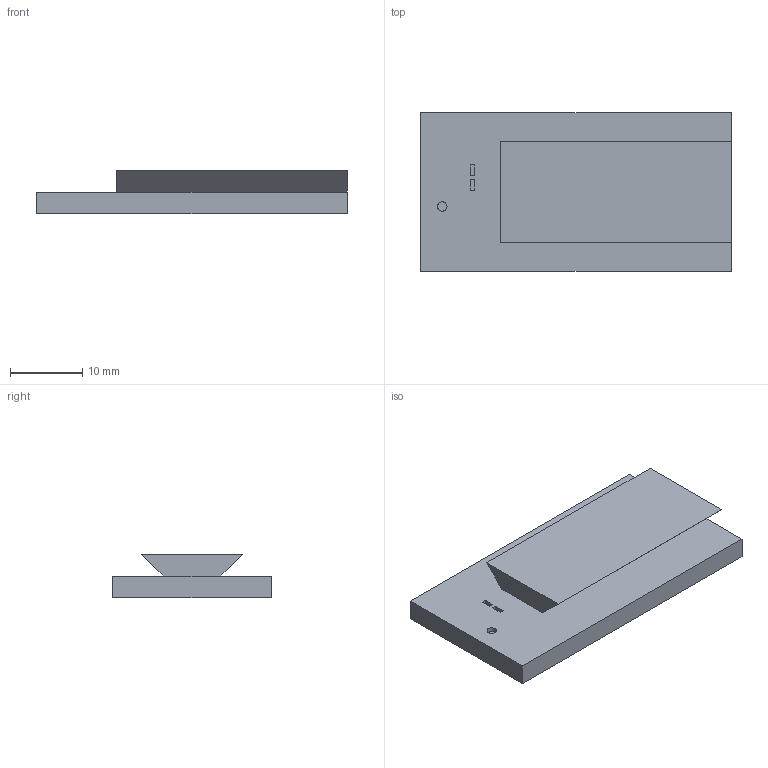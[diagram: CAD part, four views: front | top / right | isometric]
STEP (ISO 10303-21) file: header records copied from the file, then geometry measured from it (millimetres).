
FILE_DESCRIPTION(('Open CASCADE Model'),'2;1');
FILE_NAME('Open CASCADE Shape Model','2026-09-13T15:34:20',('Author'),( 'Open CASCADE'),'Open CASCADE STEP processor 7.9','build123d', 'Unknown');
FILE_SCHEMA(('AUTOMOTIVE_DESIGN { 1 0 10303 214 1 1 1 1 }'));
Length unit declared in the file: millimetre
Products named in the file (1): COMPOUND
Bounding box: 43 x 22 x 6 mm (x, y, z)
Volume: 3892.1 mm3; surface area: 2819 mm2
Topology: 1 solids, 1 shells, 22 faces, 51 edges, 34 vertices
Faces by surface type: plane 21, cylinder 1
Full cylindrical faces by diameter (mm): 1.3 x1
Entity records: 1273 total; most frequent: CARTESIAN_POINT 227, DIRECTION 184, LINE 132, VECTOR 132, ORIENTED_EDGE 102, PCURVE 102, DEFINITIONAL_REPRESENTATION 102, EDGE_CURVE 51
